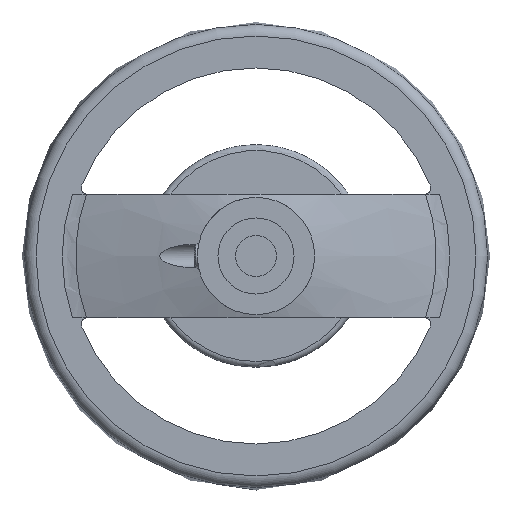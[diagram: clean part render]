
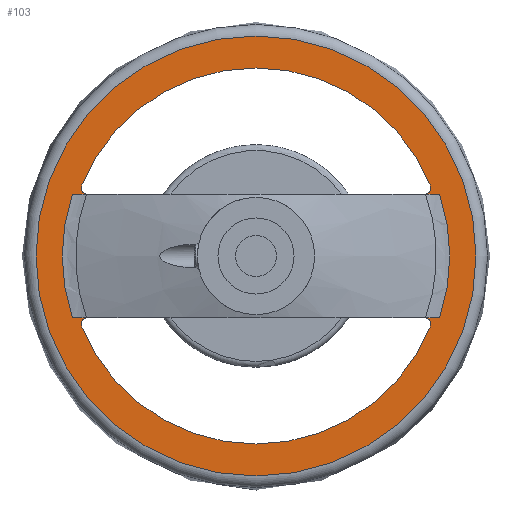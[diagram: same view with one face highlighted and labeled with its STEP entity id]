
A CAD part, left-side view. The second image highlights one B-rep face of the part: STEP entity #103.
In plain terms, the highlighted planar face has unit normal (-1, 0, 0).
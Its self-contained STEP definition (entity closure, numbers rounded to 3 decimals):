
#103 = ADVANCED_FACE( '', ( #214, #215, #216, #217 ), #218, .F. );
#214 = FACE_BOUND( '', #379, .T. );
#215 = FACE_BOUND( '', #380, .T. );
#216 = FACE_OUTER_BOUND( '', #381, .T. );
#217 = FACE_BOUND( '', #382, .T. );
#218 = PLANE( '', #383 );
#379 = EDGE_LOOP( '', ( #700, #701, #702, #703 ) );
#380 = EDGE_LOOP( '', ( #704, #705, #706, #707 ) );
#381 = EDGE_LOOP( '', ( #708 ) );
#382 = EDGE_LOOP( '', ( #709, #710, #711, #712 ) );
#383 = AXIS2_PLACEMENT_3D( '', #713, #714, #715 );
#700 = ORIENTED_EDGE( '', *, *, #1009, .F. );
#701 = ORIENTED_EDGE( '', *, *, #946, .F. );
#702 = ORIENTED_EDGE( '', *, *, #950, .F. );
#703 = ORIENTED_EDGE( '', *, *, #1010, .F. );
#704 = ORIENTED_EDGE( '', *, *, #1011, .F. );
#705 = ORIENTED_EDGE( '', *, *, #1002, .F. );
#706 = ORIENTED_EDGE( '', *, *, #1012, .F. );
#707 = ORIENTED_EDGE( '', *, *, #1013, .F. );
#708 = ORIENTED_EDGE( '', *, *, #1014, .T. );
#709 = ORIENTED_EDGE( '', *, *, #1015, .F. );
#710 = ORIENTED_EDGE( '', *, *, #1016, .F. );
#711 = ORIENTED_EDGE( '', *, *, #1017, .F. );
#712 = ORIENTED_EDGE( '', *, *, #965, .F. );
#713 = CARTESIAN_POINT( '', ( 26., -75.109, 0. ) );
#714 = DIRECTION( '', ( 1., 0., 0. ) );
#715 = DIRECTION( '', ( 0., 0., -1. ) );
#946 = EDGE_CURVE( '', #1079, #1081, #1082, .T. );
#950 = EDGE_CURVE( '', #1086, #1079, #1088, .T. );
#965 = EDGE_CURVE( '', #1114, #1116, #1117, .T. );
#1002 = EDGE_CURVE( '', #1178, #1180, #1181, .T. );
#1009 = EDGE_CURVE( '', #1081, #1192, #1193, .T. );
#1010 = EDGE_CURVE( '', #1192, #1086, #1194, .T. );
#1011 = EDGE_CURVE( '', #1180, #1195, #1196, .F. );
#1012 = EDGE_CURVE( '', #1197, #1178, #1198, .F. );
#1013 = EDGE_CURVE( '', #1195, #1197, #1199, .F. );
#1014 = EDGE_CURVE( '', #1200, #1200, #1201, .T. );
#1015 = EDGE_CURVE( '', #1202, #1114, #1203, .F. );
#1016 = EDGE_CURVE( '', #1204, #1202, #1205, .F. );
#1017 = EDGE_CURVE( '', #1116, #1204, #1206, .F. );
#1079 = VERTEX_POINT( '', #1359 );
#1081 = VERTEX_POINT( '', #1368 );
#1082 = LINE( '', #1369, #1370 );
#1086 = VERTEX_POINT( '', #1382 );
#1088 = CIRCLE( '', #1391, 66.153 );
#1114 = VERTEX_POINT( '', #1481 );
#1116 = VERTEX_POINT( '', #1484 );
#1117 = LINE( '', #1485, #1486 );
#1178 = VERTEX_POINT( '', #1785 );
#1180 = VERTEX_POINT( '', #1788 );
#1181 = LINE( '', #1789, #1790 );
#1192 = VERTEX_POINT( '', #1803 );
#1193 = CIRCLE( '', #1804, 66.153 );
#1194 = LINE( '', #1805, #1806 );
#1195 = VERTEX_POINT( '', #1807 );
#1196 = CIRCLE( '', #1808, 2. );
#1197 = VERTEX_POINT( '', #1809 );
#1198 = CIRCLE( '', #1810, 2. );
#1199 = CIRCLE( '', #1811, 64.2 );
#1200 = VERTEX_POINT( '', #1812 );
#1201 = CIRCLE( '', #1813, 75.109 );
#1202 = VERTEX_POINT( '', #1814 );
#1203 = CIRCLE( '', #1815, 2. );
#1204 = VERTEX_POINT( '', #1816 );
#1205 = CIRCLE( '', #1817, 64.2 );
#1206 = CIRCLE( '', #1818, 2. );
#1359 = CARTESIAN_POINT( '', ( 26., 62.681, -21.149 ) );
#1368 = CARTESIAN_POINT( '', ( 26., -62.681, -21.149 ) );
#1369 = CARTESIAN_POINT( '', ( 26., 160., -21.149 ) );
#1370 = VECTOR( '', #1932, 1000. );
#1382 = CARTESIAN_POINT( '', ( 26., 62.681, 21.149 ) );
#1391 = AXIS2_PLACEMENT_3D( '', #1936, #1937, #1938 );
#1481 = CARTESIAN_POINT( '', ( 26., 57.731, 21.15 ) );
#1484 = CARTESIAN_POINT( '', ( 26., -57.731, 21.15 ) );
#1485 = CARTESIAN_POINT( '', ( 26., -75.109, 21.15 ) );
#1486 = VECTOR( '', #1957, 1000. );
#1785 = CARTESIAN_POINT( '', ( 26., -57.731, -21.15 ) );
#1788 = CARTESIAN_POINT( '', ( 26., 57.731, -21.15 ) );
#1789 = CARTESIAN_POINT( '', ( 26., -75.109, -21.15 ) );
#1790 = VECTOR( '', #2012, 1000. );
#1803 = CARTESIAN_POINT( '', ( 26., -62.681, 21.149 ) );
#1804 = AXIS2_PLACEMENT_3D( '', #2027, #2028, #2029 );
#1805 = CARTESIAN_POINT( '', ( 26., -160., 21.149 ) );
#1806 = VECTOR( '', #2030, 1000. );
#1807 = CARTESIAN_POINT( '', ( 26., 59.588, -23.894 ) );
#1808 = AXIS2_PLACEMENT_3D( '', #2031, #2032, #2033 );
#1809 = CARTESIAN_POINT( '', ( 26., -59.588, -23.894 ) );
#1810 = AXIS2_PLACEMENT_3D( '', #2034, #2035, #2036 );
#1811 = AXIS2_PLACEMENT_3D( '', #2037, #2038, #2039 );
#1812 = CARTESIAN_POINT( '', ( 26., 0., 75.109 ) );
#1813 = AXIS2_PLACEMENT_3D( '', #2040, #2041, #2042 );
#1814 = CARTESIAN_POINT( '', ( 26., 59.588, 23.894 ) );
#1815 = AXIS2_PLACEMENT_3D( '', #2043, #2044, #2045 );
#1816 = CARTESIAN_POINT( '', ( 26., -59.588, 23.894 ) );
#1817 = AXIS2_PLACEMENT_3D( '', #2046, #2047, #2048 );
#1818 = AXIS2_PLACEMENT_3D( '', #2049, #2050, #2051 );
#1932 = DIRECTION( '', ( 0., -1., 0. ) );
#1936 = CARTESIAN_POINT( '', ( 26., 0., 0. ) );
#1937 = DIRECTION( '', ( -1., 0., 0. ) );
#1938 = DIRECTION( '', ( 0., 0., 1. ) );
#1957 = DIRECTION( '', ( 0., -1., 0. ) );
#2012 = DIRECTION( '', ( 0., 1., 0. ) );
#2027 = CARTESIAN_POINT( '', ( 26., 0., 0. ) );
#2028 = DIRECTION( '', ( -1., 0., 0. ) );
#2029 = DIRECTION( '', ( 0., 0., 1. ) );
#2030 = DIRECTION( '', ( 0., 1., 0. ) );
#2031 = CARTESIAN_POINT( '', ( 26., 57.731, -23.15 ) );
#2032 = DIRECTION( '', ( 1., 0., 0. ) );
#2033 = DIRECTION( '', ( 0., 0., -1. ) );
#2034 = CARTESIAN_POINT( '', ( 26., -57.731, -23.15 ) );
#2035 = DIRECTION( '', ( 1., 0., 0. ) );
#2036 = DIRECTION( '', ( 0., 0., -1. ) );
#2037 = CARTESIAN_POINT( '', ( 26., 0., 0. ) );
#2038 = DIRECTION( '', ( 1., 0., 0. ) );
#2039 = DIRECTION( '', ( 0., 0., -1. ) );
#2040 = CARTESIAN_POINT( '', ( 26., 0., 0. ) );
#2041 = DIRECTION( '', ( -1., 0., 0. ) );
#2042 = DIRECTION( '', ( 0., 0., 1. ) );
#2043 = CARTESIAN_POINT( '', ( 26., 57.731, 23.15 ) );
#2044 = DIRECTION( '', ( 1., 0., 0. ) );
#2045 = DIRECTION( '', ( 0., 0., -1. ) );
#2046 = CARTESIAN_POINT( '', ( 26., 0., 0. ) );
#2047 = DIRECTION( '', ( 1., 0., 0. ) );
#2048 = DIRECTION( '', ( 0., 0., -1. ) );
#2049 = CARTESIAN_POINT( '', ( 26., -57.731, 23.15 ) );
#2050 = DIRECTION( '', ( 1., 0., 0. ) );
#2051 = DIRECTION( '', ( 0., 0., -1. ) );
